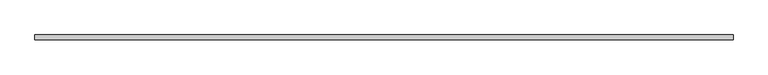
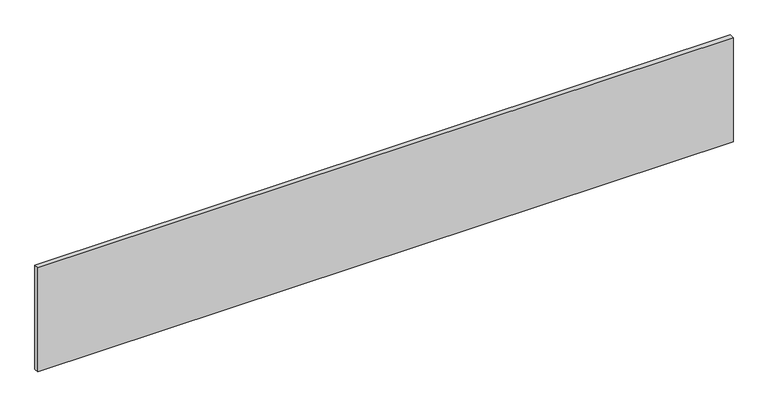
"""IFC4 building model written with IfcOpenShell, lengths in millimetres: proxy geometry, GM_Панель фасадная : Декоративные перемычки."""

from ifc_helpers import new_model, si_unit, origin, origin_with_axes, place, context, project, spatial, polyline, outline, extrude, source, transform, mapped, element, save


def generic_models_2cb277ca(model_context):
    return source(origin(), model_context, "Body", "SweptSolid", [
        extrude(outline(polyline([(-2725.0, 125.0), (125.0, 125.0), (125.0, 105.0), (-2725.0, 105.0), (-2725.0, 125.0)])), origin_with_axes(), (0.0, 0.0, 1.0), 450.0),
    ])


if __name__ == "__main__":
    model = new_model("IFC4")
    model_context = context("Model", 3, world=origin())
    ifc_project = project(units=[si_unit("LENGTHUNIT", "METRE", prefix="MILLI")], contexts=[model_context])
    site = spatial("IfcSite", under=ifc_project)
    building = spatial("IfcBuilding", under=site)
    placement = place(None, origin())
    generic_models_shape = generic_models_2cb277ca(model_context)
    element("IfcBuildingElementProxy", 1, Name="GM_Панель фасадная : Декоративные перемычки", ObjectType="GM_Панель фасадная : Декоративные перемычки", at=placement, inside=building, context=model_context, shape_type="MappedRepresentation", body=[
        mapped(generic_models_shape, transform((0.0, 0.0, 0.0), x_axis=(1.0, 0.0, 0.0), y_axis=(0.0, 1.0, 0.0), z_axis=(0.0, 0.0, 1.0))),
    ])
    save(model, "model.ifc")
